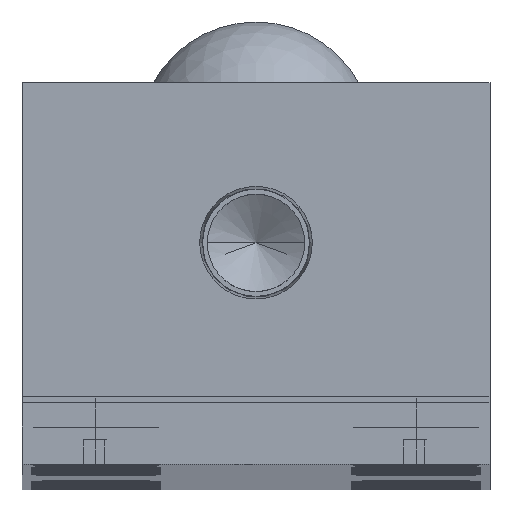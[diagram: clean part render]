
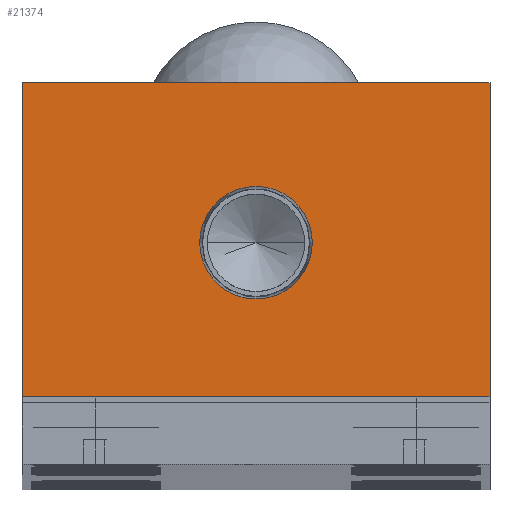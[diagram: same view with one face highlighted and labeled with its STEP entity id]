
A CAD part, top view. The second image highlights one B-rep face of the part: STEP entity #21374.
In plain terms, the highlighted planar face has unit normal (0, 0, 1).
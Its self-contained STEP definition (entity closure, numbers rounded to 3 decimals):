
#759 = DIRECTION ( 'NONE',  ( 0., 0., 1. ) ) ;
#1350 = EDGE_CURVE ( 'NONE', #15626, #16181, #26346, .T. ) ;
#2723 = PLANE ( 'NONE',  #24381 ) ;
#2736 = VECTOR ( 'NONE', #7975, 1000. ) ;
#3045 = CARTESIAN_POINT ( 'NONE',  ( 0., 18., 0. ) ) ;
#3211 = CARTESIAN_POINT ( 'NONE',  ( 19., 5.5, 0. ) ) ;
#4166 = AXIS2_PLACEMENT_3D ( 'NONE', #3045, #17284, #5093 ) ;
#4348 = EDGE_CURVE ( 'NONE', #9724, #7587, #24389, .T. ) ;
#4358 = EDGE_CURVE ( 'NONE', #16181, #9724, #8167, .T. ) ;
#5093 = DIRECTION ( 'NONE',  ( 1., 0., 0. ) ) ;
#7587 = VERTEX_POINT ( 'NONE', #3211 ) ;
#7975 = DIRECTION ( 'NONE',  ( 0., -1., 0. ) ) ;
#8167 = LINE ( 'NONE', #22198, #2736 ) ;
#8853 = CARTESIAN_POINT ( 'NONE',  ( 19., 31., 0. ) ) ;
#9217 = DIRECTION ( 'NONE',  ( 0., 0., 1. ) ) ;
#9256 = EDGE_CURVE ( 'NONE', #18711, #13552, #22076, .T. ) ;
#9724 = VERTEX_POINT ( 'NONE', #14746 ) ;
#10178 = FACE_OUTER_BOUND ( 'NONE', #12346, .T. ) ;
#10309 = CARTESIAN_POINT ( 'NONE',  ( 19., 5.5, 0. ) ) ;
#10618 = CARTESIAN_POINT ( 'NONE',  ( -4.574, 18., 0. ) ) ;
#10767 = VECTOR ( 'NONE', #12553, 1000. ) ;
#12306 = EDGE_CURVE ( 'NONE', #7587, #15626, #24981, .T. ) ;
#12344 = EDGE_LOOP ( 'NONE', ( #14492, #20976 ) ) ;
#12346 = EDGE_LOOP ( 'NONE', ( #19881, #21951, #24592, #17331 ) ) ;
#12553 = DIRECTION ( 'NONE',  ( -1., 0., 0. ) ) ;
#12933 = CARTESIAN_POINT ( 'NONE',  ( 0., 0., 0. ) ) ;
#13552 = VERTEX_POINT ( 'NONE', #10618 ) ;
#14009 = CARTESIAN_POINT ( 'NONE',  ( 19., 5.5, 0. ) ) ;
#14492 = ORIENTED_EDGE ( 'NONE', *, *, #9256, .F. ) ;
#14746 = CARTESIAN_POINT ( 'NONE',  ( -19., 5.5, 0. ) ) ;
#14997 = DIRECTION ( 'NONE',  ( 1., 0., 0. ) ) ;
#15626 = VERTEX_POINT ( 'NONE', #8853 ) ;
#16181 = VERTEX_POINT ( 'NONE', #18978 ) ;
#17284 = DIRECTION ( 'NONE',  ( 0., 0., 1. ) ) ;
#17331 = ORIENTED_EDGE ( 'NONE', *, *, #4358, .T. ) ;
#18711 = VERTEX_POINT ( 'NONE', #18723 ) ;
#18723 = CARTESIAN_POINT ( 'NONE',  ( 4.574, 18., 0. ) ) ;
#18978 = CARTESIAN_POINT ( 'NONE',  ( -19., 31., 0. ) ) ;
#18989 = VECTOR ( 'NONE', #26189, 1000. ) ;
#19881 = ORIENTED_EDGE ( 'NONE', *, *, #4348, .T. ) ;
#20976 = ORIENTED_EDGE ( 'NONE', *, *, #21446, .F. ) ;
#21374 = ADVANCED_FACE ( 'NONE', ( #21621, #10178 ), #2723, .T. ) ;
#21413 = CARTESIAN_POINT ( 'NONE',  ( 0., 18., 0. ) ) ;
#21446 = EDGE_CURVE ( 'NONE', #13552, #18711, #24485, .T. ) ;
#21621 = FACE_BOUND ( 'NONE', #12344, .T. ) ;
#21951 = ORIENTED_EDGE ( 'NONE', *, *, #12306, .T. ) ;
#22076 = CIRCLE ( 'NONE', #4166, 4.574 ) ;
#22198 = CARTESIAN_POINT ( 'NONE',  ( -19., 31., 0. ) ) ;
#23011 = AXIS2_PLACEMENT_3D ( 'NONE', #21413, #9217, #23442 ) ;
#23442 = DIRECTION ( 'NONE',  ( 1., 0., 0. ) ) ;
#24381 = AXIS2_PLACEMENT_3D ( 'NONE', #12933, #759, #14997 ) ;
#24389 = LINE ( 'NONE', #14009, #18989 ) ;
#24485 = CIRCLE ( 'NONE', #23011, 4.574 ) ;
#24533 = DIRECTION ( 'NONE',  ( 0., 1., 0. ) ) ;
#24592 = ORIENTED_EDGE ( 'NONE', *, *, #1350, .T. ) ;
#24765 = CARTESIAN_POINT ( 'NONE',  ( 19., 31., 0. ) ) ;
#24981 = LINE ( 'NONE', #10309, #25600 ) ;
#25600 = VECTOR ( 'NONE', #24533, 1000. ) ;
#26189 = DIRECTION ( 'NONE',  ( 1., 0., 0. ) ) ;
#26346 = LINE ( 'NONE', #24765, #10767 ) ;
